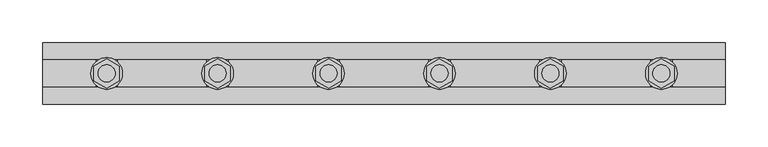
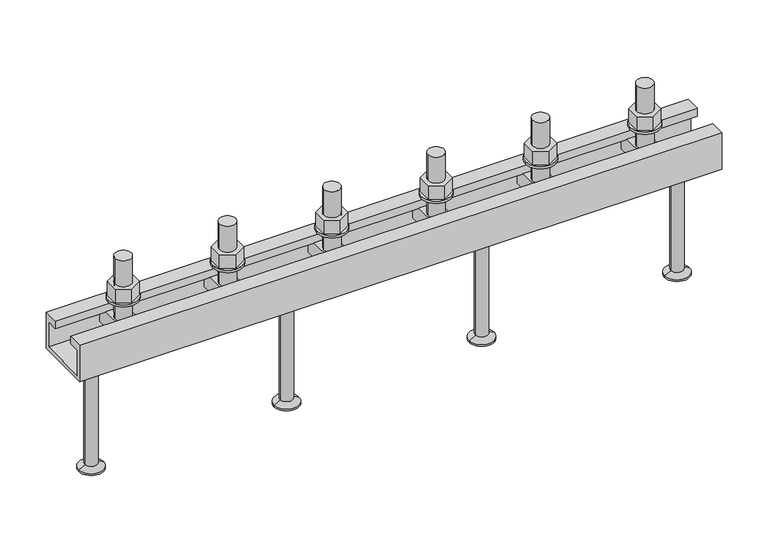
"""IFC4 building model written with IfcOpenShell, lengths in millimetres: fastener geometry, JTA-W JORDAHL® AnchorChannels : JTA-W L=800 mm."""

import ifcopenshell
import ifcopenshell.guid

model = None  # the IFC model being written
_history = None  # IfcOwnerHistory: only IFC2X3 demands one
_inside = {}  # id of a spatial element -> (the spatial element, [elements in it])
_under = {}  # id of a project, library or spatial element -> (it, [spatial elements below it])
_declared = {}  # id of a project -> (the project, [libraries it declares])
_typed = {}  # id of a type object -> (the type object, [elements of that type])
_made_of = {}  # id of a material, layer set ... -> (it, [elements and type objects made of it])


def new_model(schema):
    """Start an empty IFC model of exactly this schema.

    Asked for "IFC4X3", IfcOpenShell would pick the latest addendum, in which some entities
    have other attributes; the version numbers below select the first issue.
    IFC2X3 requires an IfcOwnerHistory on every rooted entity: one is made here for all.
    """
    global model, _history
    if schema == "IFC4X3":
        model = ifcopenshell.file(schema_version=(4, 3, 0, 0))
    else:
        model = ifcopenshell.file(schema=schema)
    _inside.clear()
    _under.clear()
    _declared.clear()
    _typed.clear()
    _made_of.clear()
    _history = None
    if model.schema == "IFC2X3":
        org = make("IfcOrganization", Name="unknown")
        user = make(
            "IfcPersonAndOrganization",
            ThePerson=make("IfcPerson", FamilyName="unknown"),
            TheOrganization=org,
        )
        app = make(
            "IfcApplication",
            ApplicationDeveloper=org,
            Version="unknown",
            ApplicationFullName="unknown",
            ApplicationIdentifier="unknown",
        )
        _history = make(
            "IfcOwnerHistory",
            OwningUser=user,
            OwningApplication=app,
            ChangeAction="ADDED",
            CreationDate=0,
        )
    return model


def make(cls, **values):
    """One entity of the class cls with the attributes given. An attribute that is None is left unset."""
    return model.create_entity(
        cls, **{name: value for name, value in values.items() if value is not None}
    )


def rooted(cls, **values):
    """An entity with a GlobalId (a new one), such as an element, a storey or a relation."""
    return make(cls, GlobalId=ifcopenshell.guid.new(), OwnerHistory=_history, **values)


def si_unit(unit_type, name, prefix=None):
    """IfcSIUnit, for example si_unit("LENGTHUNIT", "METRE", prefix="MILLI")."""
    return make("IfcSIUnit", UnitType=unit_type, Prefix=prefix, Name=name)


def assignment(units):
    """IfcUnitAssignment: the units of a project."""
    return None if units is None else make("IfcUnitAssignment", Units=units)


def point(xyz):
    """IfcCartesianPoint."""
    return None if xyz is None else make("IfcCartesianPoint", Coordinates=xyz)


def direction(xyz):
    """IfcDirection."""
    return None if xyz is None else make("IfcDirection", DirectionRatios=xyz)


def frame(location, z_axis=None, x_axis=None):
    """IfcAxis2Placement3D, a coordinate frame: its origin and axes. An axis left out is left unset."""
    return make(
        "IfcAxis2Placement3D",
        Location=point(location),
        Axis=direction(z_axis),
        RefDirection=direction(x_axis),
    )


def frame_2d(location, x_axis=None):
    """IfcAxis2Placement2D, a coordinate frame in the plane: its origin and x axis."""
    return make(
        "IfcAxis2Placement2D", Location=point(location), RefDirection=direction(x_axis)
    )


def origin():
    """The frame at (0, 0, 0) with its axes left unset."""
    return frame((0.0, 0.0, 0.0))


def place(relative_to, where):
    """IfcLocalPlacement: puts the frame where relative to a parent placement (None: the world)."""
    return make(
        "IfcLocalPlacement", PlacementRelTo=relative_to, RelativePlacement=where
    )


def context(
    kind, dimensions, precision=None, world=None, true_north=None, identifier=None
):
    """IfcGeometricRepresentationContext, for example the 3D "Model" context."""
    return make(
        "IfcGeometricRepresentationContext",
        ContextIdentifier=identifier,
        ContextType=kind,
        CoordinateSpaceDimension=dimensions,
        Precision=precision,
        WorldCoordinateSystem=world,
        TrueNorth=true_north,
    )


def project(units=None, contexts=None):
    """IfcProject with its units and contexts."""
    return rooted(
        "IfcProject",
        Name="project",
        RepresentationContexts=contexts,
        UnitsInContext=assignment(units),
    )


def spatial(cls, under=None, at=None, **own):
    """A site, building, storey or space (cls), placed at a placement, below another one or the project."""
    s = rooted(cls, ObjectPlacement=at, **own)
    if under is not None:
        _under.setdefault(under.id(), (under, []))[1].append(s)
    return s


def polyline(points):
    """IfcPolyline through the points."""
    return make("IfcPolyline", Points=[point(p) for p in points])


def circle_curve(where, radius):
    """IfcCircle in the frame where."""
    return make("IfcCircle", Position=where, Radius=radius)


def trimmed(basis, trim1, trim2, sense, master):
    """IfcTrimmedCurve: the piece of a basis curve between two trims."""
    return make(
        "IfcTrimmedCurve",
        BasisCurve=basis,
        Trim1=trim1,
        Trim2=trim2,
        SenseAgreement=sense,
        MasterRepresentation=master,
    )


def segment(curve, same_sense, transition):
    """IfcCompositeCurveSegment."""
    return make(
        "IfcCompositeCurveSegment",
        Transition=transition,
        SameSense=same_sense,
        ParentCurve=curve,
    )


def composite_curve(segments, self_intersect=None):
    """IfcCompositeCurve: segments joined end to end."""
    return make("IfcCompositeCurve", Segments=segments, SelfIntersect=self_intersect)


def outline(outer, holes=None, kind="AREA"):
    """IfcArbitraryClosedProfileDef: a profile drawn as a closed curve; with holes, ...WithVoids."""
    if holes is None:
        return make("IfcArbitraryClosedProfileDef", ProfileType=kind, OuterCurve=outer)
    return make(
        "IfcArbitraryProfileDefWithVoids",
        ProfileType=kind,
        OuterCurve=outer,
        InnerCurves=holes,
    )


def extrude(swept, where, along, depth):
    """IfcExtrudedAreaSolid: the profile swept, set in the frame where, extruded along a direction by depth."""
    return make(
        "IfcExtrudedAreaSolid",
        SweptArea=swept,
        Position=where,
        ExtrudedDirection=direction(along),
        Depth=depth,
    )


def shape(context_of_items, identifier, shape_type, items):
    """IfcShapeRepresentation: the items that make up one representation, for example the "Body"."""
    return make(
        "IfcShapeRepresentation",
        ContextOfItems=context_of_items,
        RepresentationIdentifier=identifier,
        RepresentationType=shape_type,
        Items=items,
    )


def source(mapping_origin, context_of_items, identifier, shape_type, items):
    """IfcRepresentationMap: a shape defined once, which mapped items show again and again."""
    return make(
        "IfcRepresentationMap",
        MappingOrigin=mapping_origin,
        MappedRepresentation=shape(context_of_items, identifier, shape_type, items),
    )


def transform(
    local_origin,
    x_axis=None,
    y_axis=None,
    z_axis=None,
    scale=None,
    scale2=None,
    scale3=None,
    uniform=True,
):
    """IfcCartesianTransformationOperator3D, or its non-uniform kind. x_axis, y_axis, z_axis: its Axis1, 2, 3."""
    if uniform:
        return make(
            "IfcCartesianTransformationOperator3D",
            Axis1=direction(x_axis),
            Axis2=direction(y_axis),
            LocalOrigin=point(local_origin),
            Scale=scale,
            Axis3=direction(z_axis),
        )
    return make(
        "IfcCartesianTransformationOperator3DnonUniform",
        Axis1=direction(x_axis),
        Axis2=direction(y_axis),
        LocalOrigin=point(local_origin),
        Scale=scale,
        Axis3=direction(z_axis),
        Scale2=scale2,
        Scale3=scale3,
    )


def mapped(mapping_source, mapping_target):
    """IfcMappedItem: shows the shape of a source again, moved by a transform."""
    return make(
        "IfcMappedItem", MappingSource=mapping_source, MappingTarget=mapping_target
    )


def made_of(thing, what):
    """Note that an element or type object is made of a material, layer set ...; save() writes the relation."""
    if what is not None:
        _made_of.setdefault(what.id(), (what, []))[1].append(thing)
    return thing


def element(
    cls,
    number,
    at=None,
    inside=None,
    cuts=None,
    type_object=None,
    material=None,
    context=None,
    identifier="Body",
    shape_type=None,
    held_by="IfcProductDefinitionShape",
    body=None,
    shapes=None,
    **own,
):
    """One element of the class cls, such as IfcWall. Its Tag is "e" and its number.

    at: its placement. inside: the storey or other place that contains it. cuts: it is an
    opening in that element (IfcRelVoidsElement). A single representation is given by context,
    identifier, shape_type and body (its items); several are given by shapes. held_by: the class
    of the entity that holds the representations. save() writes the other relations.
    """
    e = rooted(cls, Tag="e%d" % number, ObjectPlacement=at, **own)
    if body is not None:
        shapes = [shape(context, identifier, shape_type, body)]
    if shapes is not None:
        e.Representation = make(held_by, Representations=shapes)
    if inside is not None:
        _inside.setdefault(inside.id(), (inside, []))[1].append(e)
    if cuts is not None:
        rooted(
            "IfcRelVoidsElement", RelatingBuildingElement=cuts, RelatedOpeningElement=e
        )
    if type_object is not None:
        _typed.setdefault(type_object.id(), (type_object, []))[1].append(e)
    return made_of(e, material)


def aggregate(whole, parts):
    """IfcRelAggregates: a whole, such as a stair, and the parts it consists of."""
    return rooted("IfcRelAggregates", RelatingObject=whole, RelatedObjects=parts)


def save(model, path):
    """Write the relations noted so far, then the file.

    IfcRelAggregates (storeys below a building ...), IfcRelContainedInSpatialStructure (elements
    in a storey), IfcRelDefinesByType, IfcRelAssociatesMaterial and IfcRelDeclares: one each for
    every whole, place, type object, material and project.
    """
    for whole, parts in _under.values():
        aggregate(whole, parts)
    for where, things in _inside.values():
        rooted(
            "IfcRelContainedInSpatialStructure",
            RelatedElements=things,
            RelatingStructure=where,
        )
    for kind, things in _typed.values():
        rooted("IfcRelDefinesByType", RelatedObjects=things, RelatingType=kind)
    for what, things in _made_of.values():
        rooted("IfcRelAssociatesMaterial", RelatedObjects=things, RelatingMaterial=what)
    for by, libraries in _declared.values():
        rooted("IfcRelDeclares", RelatingContext=by, RelatedDefinitions=libraries)
    model.write(path)


def plane_surface(at):
    """IfcPlane: the flat surface through the origin of the frame at, square to its z axis."""
    return make("IfcPlane", Position=at)


def cylinder_surface(at, radius):
    """IfcCylindricalSurface: all points at the distance radius from the z axis of the frame at."""
    return make("IfcCylindricalSurface", Position=at, Radius=radius)


def revolved_surface(curve, axis_point, axis_direction):
    """IfcSurfaceOfRevolution: the curve turned about the line through axis_point along axis_direction."""
    return make(
        "IfcSurfaceOfRevolution",
        SweptCurve=make("IfcArbitraryOpenProfileDef", ProfileType="CURVE", Curve=curve),
        AxisPosition=make("IfcAxis1Placement", Location=point(axis_point), Axis=direction(axis_direction)),
    )


def advanced_brep(points, edges, surfaces, faces):
    """IfcAdvancedBrep: a solid bounded by faces that lie on surfaces and meet in shared edges.

    An edge is (start, end): straight between two places in points (the first is 0);
    or (start, end, curve); or (start, end, curve, False) where it runs against its curve.
    A face is (place in surfaces, loops), or (place, loops, False) where it looks against
    its surface's normal. A loop lists edges by number (the first is 1), with a minus sign
    where the edge is run from its end to its start. The first loop is the outer one.
    """
    corners = [point(p) for p in points]
    vertices = [make("IfcVertexPoint", VertexGeometry=c) for c in corners]
    made = []
    for start, end, *more in edges:
        made.append(
            make(
                "IfcEdgeCurve",
                EdgeStart=vertices[start],
                EdgeEnd=vertices[end],
                EdgeGeometry=more[0] if more else make("IfcPolyline", Points=[corners[start], corners[end]]),
                SameSense=more[1] if len(more) > 1 else True,
            )
        )
    hull = []
    for where, loops, *sense in faces:
        bounds = []
        for j, loop in enumerate(loops):
            ring = [make("IfcOrientedEdge", EdgeElement=made[abs(k) - 1], Orientation=k > 0) for k in loop]
            bounds.append(
                make(
                    "IfcFaceOuterBound" if j == 0 else "IfcFaceBound",
                    Bound=make("IfcEdgeLoop", EdgeList=ring),
                    Orientation=True,
                )
            )
        hull.append(make("IfcAdvancedFace", Bounds=bounds, FaceSurface=surfaces[where], SameSense=sense[0] if sense else True))
    return make("IfcAdvancedBrep", Outer=make("IfcClosedShell", CfsFaces=hull))


def fastener_4537a4bb(model_context):
    return source(origin(), model_context, "Body", "SolidModel", [
        extrude(outline(polyline([(595.0, 17.3205081), (610.0, 8.660254), (610.0, -8.660254), (595.0, -17.3205081), (580.0, -8.660254), (580.0, 8.660254), (595.0, 17.3205081)]), holes=[composite_curve([segment(trimmed(circle_curve(frame_2d((595.0, 0.0)), 10.0), [point((585.0, 0.0))], [point((605.0, 0.0))], True, "CARTESIAN"), True, "CONTINUOUS"), segment(trimmed(circle_curve(frame_2d((595.0, 0.0)), 10.0), [point((605.0, 0.0))], [point((585.0, 0.0))], True, "CARTESIAN"), True, "CONTINUOUS")], self_intersect=False)]), frame((0.0, 0.0, 18.0), z_axis=(0.0, 0.0, 1.0), x_axis=(1.0, 0.0, 0.0)), (0.0, 0.0, 1.0), 18.0),
        extrude(outline(composite_curve([segment(trimmed(circle_curve(frame_2d((595.0, 0.0)), 18.5), [point((576.5, 0.0))], [point((613.5, 0.0))], False, "CARTESIAN"), True, "CONTINUOUS"), segment(trimmed(circle_curve(frame_2d((595.0, 0.0)), 18.5), [point((613.5, 0.0))], [point((576.5, 0.0))], False, "CARTESIAN"), True, "CONTINUOUS")], self_intersect=False), holes=[composite_curve([segment(trimmed(circle_curve(frame_2d((595.0, 0.0)), 10.5), [point((584.5, 0.0))], [point((605.5, 0.0))], True, "CARTESIAN"), True, "CONTINUOUS"), segment(trimmed(circle_curve(frame_2d((595.0, 0.0)), 10.5), [point((605.5, 0.0))], [point((584.5, 0.0))], True, "CARTESIAN"), True, "CONTINUOUS")], self_intersect=False)]), frame((0.0, 0.0, 15.0), z_axis=(0.0, 0.0, 1.0), x_axis=(1.0, 0.0, 0.0)), (0.0, 0.0, 1.0), 3.0),
        extrude(outline(polyline([(465.0, 17.3205081), (480.0, 8.660254), (480.0, -8.660254), (465.0, -17.3205081), (450.0, -8.660254), (450.0, 8.660254), (465.0, 17.3205081)]), holes=[composite_curve([segment(trimmed(circle_curve(frame_2d((465.0, 0.0)), 10.0), [point((455.0, 0.0))], [point((475.0, 0.0))], True, "CARTESIAN"), True, "CONTINUOUS"), segment(trimmed(circle_curve(frame_2d((465.0, 0.0)), 10.0), [point((475.0, 0.0))], [point((455.0, 0.0))], True, "CARTESIAN"), True, "CONTINUOUS")], self_intersect=False)]), frame((0.0, 0.0, 18.0), z_axis=(0.0, 0.0, 1.0), x_axis=(1.0, 0.0, 0.0)), (0.0, 0.0, 1.0), 18.0),
        extrude(outline(composite_curve([segment(trimmed(circle_curve(frame_2d((465.0, 0.0)), 18.5), [point((446.5, 0.0))], [point((483.5, 0.0))], False, "CARTESIAN"), True, "CONTINUOUS"), segment(trimmed(circle_curve(frame_2d((465.0, 0.0)), 18.5), [point((483.5, 0.0))], [point((446.5, 0.0))], False, "CARTESIAN"), True, "CONTINUOUS")], self_intersect=False), holes=[composite_curve([segment(trimmed(circle_curve(frame_2d((465.0, 0.0)), 10.5), [point((454.5, 0.0))], [point((475.5, 0.0))], True, "CARTESIAN"), True, "CONTINUOUS"), segment(trimmed(circle_curve(frame_2d((465.0, 0.0)), 10.5), [point((475.5, 0.0))], [point((454.5, 0.0))], True, "CARTESIAN"), True, "CONTINUOUS")], self_intersect=False)]), frame((0.0, 0.0, 15.0), z_axis=(0.0, 0.0, 1.0), x_axis=(1.0, 0.0, 0.0)), (0.0, 0.0, 1.0), 3.0),
        extrude(outline(polyline([(335.0, 17.3205081), (350.0, 8.660254), (350.0, -8.660254), (335.0, -17.3205081), (320.0, -8.660254), (320.0, 8.660254), (335.0, 17.3205081)]), holes=[composite_curve([segment(trimmed(circle_curve(frame_2d((335.0, 0.0)), 10.0), [point((325.0, 0.0))], [point((345.0, 0.0))], True, "CARTESIAN"), True, "CONTINUOUS"), segment(trimmed(circle_curve(frame_2d((335.0, 0.0)), 10.0), [point((345.0, 0.0))], [point((325.0, 0.0))], True, "CARTESIAN"), True, "CONTINUOUS")], self_intersect=False)]), frame((0.0, 0.0, 18.0), z_axis=(0.0, 0.0, 1.0), x_axis=(1.0, 0.0, 0.0)), (0.0, 0.0, 1.0), 18.0),
        extrude(outline(composite_curve([segment(trimmed(circle_curve(frame_2d((335.0, 0.0)), 18.5), [point((316.5, 0.0))], [point((353.5, 0.0))], False, "CARTESIAN"), True, "CONTINUOUS"), segment(trimmed(circle_curve(frame_2d((335.0, 0.0)), 18.5), [point((353.5, 0.0))], [point((316.5, 0.0))], False, "CARTESIAN"), True, "CONTINUOUS")], self_intersect=False), holes=[composite_curve([segment(trimmed(circle_curve(frame_2d((335.0, 0.0)), 10.5), [point((324.5, 0.0))], [point((345.5, 0.0))], True, "CARTESIAN"), True, "CONTINUOUS"), segment(trimmed(circle_curve(frame_2d((335.0, 0.0)), 10.5), [point((345.5, 0.0))], [point((324.5, 0.0))], True, "CARTESIAN"), True, "CONTINUOUS")], self_intersect=False)]), frame((0.0, 0.0, 15.0), z_axis=(0.0, 0.0, 1.0), x_axis=(1.0, 0.0, 0.0)), (0.0, 0.0, 1.0), 3.0),
        extrude(outline(polyline([(205.0, 17.3205081), (220.0, 8.660254), (220.0, -8.660254), (205.0, -17.3205081), (190.0, -8.660254), (190.0, 8.660254), (205.0, 17.3205081)]), holes=[composite_curve([segment(trimmed(circle_curve(frame_2d((205.0, 0.0)), 10.0), [point((195.0, 0.0))], [point((215.0, 0.0))], True, "CARTESIAN"), True, "CONTINUOUS"), segment(trimmed(circle_curve(frame_2d((205.0, 0.0)), 10.0), [point((215.0, 0.0))], [point((195.0, 0.0))], True, "CARTESIAN"), True, "CONTINUOUS")], self_intersect=False)]), frame((0.0, 0.0, 18.0), z_axis=(0.0, 0.0, 1.0), x_axis=(1.0, 0.0, 0.0)), (0.0, 0.0, 1.0), 18.0),
        extrude(outline(composite_curve([segment(trimmed(circle_curve(frame_2d((205.0, 0.0)), 18.5), [point((186.5, 0.0))], [point((223.5, 0.0))], False, "CARTESIAN"), True, "CONTINUOUS"), segment(trimmed(circle_curve(frame_2d((205.0, 0.0)), 18.5), [point((223.5, 0.0))], [point((186.5, 0.0))], False, "CARTESIAN"), True, "CONTINUOUS")], self_intersect=False), holes=[composite_curve([segment(trimmed(circle_curve(frame_2d((205.0, 0.0)), 10.5), [point((194.5, 0.0))], [point((215.5, 0.0))], True, "CARTESIAN"), True, "CONTINUOUS"), segment(trimmed(circle_curve(frame_2d((205.0, 0.0)), 10.5), [point((215.5, 0.0))], [point((194.5, 0.0))], True, "CARTESIAN"), True, "CONTINUOUS")], self_intersect=False)]), frame((0.0, 0.0, 15.0), z_axis=(0.0, 0.0, 1.0), x_axis=(1.0, 0.0, 0.0)), (0.0, 0.0, 1.0), 3.0),
        advanced_brep(
        [(607.5, 29.0, -10.0), (607.5, -29.0, -10.0), (607.5, -29.0, -30.0), (607.5, 29.0, -30.0), (582.5, 29.0, -10.0), (582.5, 29.0, -30.0), (582.5, -29.0, -30.0), (582.5, -29.0, -10.0), (605.0, 0.0, -10.0), (585.0, 0.0, -10.0), (585.0, 0.0, 70.0), (605.0, 0.0, 70.0)],
        [
            (0, 1),
            (1, 2),
            (2, 3),
            (3, 0),
            (4, 5),
            (5, 6),
            (6, 7),
            (7, 4),
            (0, 4),
            (7, 1),
            (8, 9, circle_curve(frame((595.0, 0.0, -10.0), z_axis=(0.0, 0.0, -1.0), x_axis=(1.0, 0.0, 0.0)), 10.0)),
            (9, 8, circle_curve(frame((595.0, 0.0, -10.0), z_axis=(0.0, 0.0, -1.0), x_axis=(1.0, 0.0, 0.0)), 10.0)),
            (6, 2),
            (5, 3),
            (10, 11, circle_curve(frame((595.0, 0.0, 70.0), z_axis=(0.0, 0.0, 1.0), x_axis=(1.0, 0.0, 0.0)), 10.0)),
            (11, 10, circle_curve(frame((595.0, 0.0, 70.0), z_axis=(0.0, 0.0, 1.0), x_axis=(1.0, 0.0, 0.0)), 10.0)),
            (10, 9),
            (8, 11),
        ],
        [
            plane_surface(frame((607.5, -29.0, -10.0), z_axis=(1.0, 0.0, 0.0), x_axis=(0.0, -1.0, 0.0))),
            plane_surface(frame((582.5, -29.0, -10.0), z_axis=(-1.0, 0.0, 0.0), x_axis=(0.0, 1.0, 0.0))),
            plane_surface(frame((607.5, 29.0, -10.0), z_axis=(0.0, 0.0, 1.0), x_axis=(-1.0, 0.0, 0.0))),
            plane_surface(frame((607.5, -29.0, -10.0), z_axis=(0.0, -1.0, 0.0), x_axis=(-1.0, 0.0, 0.0))),
            plane_surface(frame((607.5, -29.0, -30.0), z_axis=(0.0, 0.0, -1.0), x_axis=(-1.0, 0.0, 0.0))),
            plane_surface(frame((607.5, 29.0, -30.0), z_axis=(0.0, 1.0, 0.0), x_axis=(-1.0, 0.0, 0.0))),
            plane_surface(frame((605.0, 0.0, 70.0), z_axis=(0.0, 0.0, 1.0), x_axis=(0.0, 1.0, 0.0))),
            cylinder_surface(frame((595.0, 0.0, -10.0), z_axis=(0.0, 0.0, 1.0), x_axis=(1.0, 0.0, 0.0)), 10.0),
        ],
        [
            (0, [[1, 2, 3, 4]]),
            (1, [[5, 6, 7, 8]]),
            (2, [[-1, 9, -8, 10], [11, 12]]),
            (3, [[-2, -10, -7, 13]]),
            (4, [[-3, -13, -6, 14]]),
            (5, [[-4, -14, -5, -9]]),
            (6, [[15, 16]]),
            (7, [[-15, 17, -11, 18]]),
            (7, [[-16, -18, -12, -17]]),
        ],
    ),
        advanced_brep(
        [(477.5, 29.0, -10.0), (477.5, -29.0, -10.0), (477.5, -29.0, -30.0), (477.5, 29.0, -30.0), (452.5, 29.0, -10.0), (452.5, 29.0, -30.0), (452.5, -29.0, -30.0), (452.5, -29.0, -10.0), (475.0, 0.0, -10.0), (455.0, 0.0, -10.0), (455.0, 0.0, 70.0), (475.0, 0.0, 70.0)],
        [
            (0, 1),
            (1, 2),
            (2, 3),
            (3, 0),
            (4, 5),
            (5, 6),
            (6, 7),
            (7, 4),
            (0, 4),
            (7, 1),
            (8, 9, circle_curve(frame((465.0, 0.0, -10.0), z_axis=(0.0, 0.0, -1.0), x_axis=(1.0, 0.0, 0.0)), 10.0)),
            (9, 8, circle_curve(frame((465.0, 0.0, -10.0), z_axis=(0.0, 0.0, -1.0), x_axis=(1.0, 0.0, 0.0)), 10.0)),
            (6, 2),
            (5, 3),
            (10, 11, circle_curve(frame((465.0, 0.0, 70.0), z_axis=(0.0, 0.0, 1.0), x_axis=(1.0, 0.0, 0.0)), 10.0)),
            (11, 10, circle_curve(frame((465.0, 0.0, 70.0), z_axis=(0.0, 0.0, 1.0), x_axis=(1.0, 0.0, 0.0)), 10.0)),
            (10, 9),
            (8, 11),
        ],
        [
            plane_surface(frame((477.5, -29.0, -10.0), z_axis=(1.0, 0.0, 0.0), x_axis=(0.0, -1.0, 0.0))),
            plane_surface(frame((452.5, -29.0, -10.0), z_axis=(-1.0, 0.0, 0.0), x_axis=(0.0, 1.0, 0.0))),
            plane_surface(frame((477.5, 29.0, -10.0), z_axis=(0.0, 0.0, 1.0), x_axis=(-1.0, 0.0, 0.0))),
            plane_surface(frame((477.5, -29.0, -10.0), z_axis=(0.0, -1.0, 0.0), x_axis=(-1.0, 0.0, 0.0))),
            plane_surface(frame((477.5, -29.0, -30.0), z_axis=(0.0, 0.0, -1.0), x_axis=(-1.0, 0.0, 0.0))),
            plane_surface(frame((477.5, 29.0, -30.0), z_axis=(0.0, 1.0, 0.0), x_axis=(-1.0, 0.0, 0.0))),
            plane_surface(frame((475.0, 0.0, 70.0), z_axis=(0.0, 0.0, 1.0), x_axis=(0.0, 1.0, 0.0))),
            cylinder_surface(frame((465.0, 0.0, -10.0), z_axis=(0.0, 0.0, 1.0), x_axis=(1.0, 0.0, 0.0)), 10.0),
        ],
        [
            (0, [[1, 2, 3, 4]]),
            (1, [[5, 6, 7, 8]]),
            (2, [[-1, 9, -8, 10], [11, 12]]),
            (3, [[-2, -10, -7, 13]]),
            (4, [[-3, -13, -6, 14]]),
            (5, [[-4, -14, -5, -9]]),
            (6, [[15, 16]]),
            (7, [[-15, 17, -11, 18]]),
            (7, [[-16, -18, -12, -17]]),
        ],
    ),
        advanced_brep(
        [(347.5, 29.0, -10.0), (347.5, -29.0, -10.0), (347.5, -29.0, -30.0), (347.5, 29.0, -30.0), (322.5, 29.0, -10.0), (322.5, 29.0, -30.0), (322.5, -29.0, -30.0), (322.5, -29.0, -10.0), (345.0, 0.0, -10.0), (325.0, 0.0, -10.0), (325.0, 0.0, 70.0), (345.0, 0.0, 70.0)],
        [
            (0, 1),
            (1, 2),
            (2, 3),
            (3, 0),
            (4, 5),
            (5, 6),
            (6, 7),
            (7, 4),
            (0, 4),
            (7, 1),
            (8, 9, circle_curve(frame((335.0, 0.0, -10.0), z_axis=(0.0, 0.0, -1.0), x_axis=(1.0, 0.0, 0.0)), 10.0)),
            (9, 8, circle_curve(frame((335.0, 0.0, -10.0), z_axis=(0.0, 0.0, -1.0), x_axis=(1.0, 0.0, 0.0)), 10.0)),
            (6, 2),
            (5, 3),
            (10, 11, circle_curve(frame((335.0, 0.0, 70.0), z_axis=(0.0, 0.0, 1.0), x_axis=(1.0, 0.0, 0.0)), 10.0)),
            (11, 10, circle_curve(frame((335.0, 0.0, 70.0), z_axis=(0.0, 0.0, 1.0), x_axis=(1.0, 0.0, 0.0)), 10.0)),
            (10, 9),
            (8, 11),
        ],
        [
            plane_surface(frame((347.5, -29.0, -10.0), z_axis=(1.0, 0.0, 0.0), x_axis=(0.0, -1.0, 0.0))),
            plane_surface(frame((322.5, -29.0, -10.0), z_axis=(-1.0, 0.0, 0.0), x_axis=(0.0, 1.0, 0.0))),
            plane_surface(frame((347.5, 29.0, -10.0), z_axis=(0.0, 0.0, 1.0), x_axis=(-1.0, 0.0, 0.0))),
            plane_surface(frame((347.5, -29.0, -10.0), z_axis=(0.0, -1.0, 0.0), x_axis=(-1.0, 0.0, 0.0))),
            plane_surface(frame((347.5, -29.0, -30.0), z_axis=(0.0, 0.0, -1.0), x_axis=(-1.0, 0.0, 0.0))),
            plane_surface(frame((347.5, 29.0, -30.0), z_axis=(0.0, 1.0, 0.0), x_axis=(-1.0, 0.0, 0.0))),
            plane_surface(frame((345.0, 0.0, 70.0), z_axis=(0.0, 0.0, 1.0), x_axis=(0.0, 1.0, 0.0))),
            cylinder_surface(frame((335.0, 0.0, -10.0), z_axis=(0.0, 0.0, 1.0), x_axis=(1.0, 0.0, 0.0)), 10.0),
        ],
        [
            (0, [[1, 2, 3, 4]]),
            (1, [[5, 6, 7, 8]]),
            (2, [[-1, 9, -8, 10], [11, 12]]),
            (3, [[-2, -10, -7, 13]]),
            (4, [[-3, -13, -6, 14]]),
            (5, [[-4, -14, -5, -9]]),
            (6, [[15, 16]]),
            (7, [[-15, 17, -11, 18]]),
            (7, [[-16, -18, -12, -17]]),
        ],
    ),
        advanced_brep(
        [(217.5, 29.0, -10.0), (217.5, -29.0, -10.0), (217.5, -29.0, -30.0), (217.5, 29.0, -30.0), (192.5, 29.0, -10.0), (192.5, 29.0, -30.0), (192.5, -29.0, -30.0), (192.5, -29.0, -10.0), (215.0, 0.0, -10.0), (195.0, 0.0, -10.0), (195.0, 0.0, 70.0), (215.0, 0.0, 70.0)],
        [
            (0, 1),
            (1, 2),
            (2, 3),
            (3, 0),
            (4, 5),
            (5, 6),
            (6, 7),
            (7, 4),
            (0, 4),
            (7, 1),
            (8, 9, circle_curve(frame((205.0, 0.0, -10.0), z_axis=(0.0, 0.0, -1.0), x_axis=(1.0, 0.0, 0.0)), 10.0)),
            (9, 8, circle_curve(frame((205.0, 0.0, -10.0), z_axis=(0.0, 0.0, -1.0), x_axis=(1.0, 0.0, 0.0)), 10.0)),
            (6, 2),
            (5, 3),
            (10, 11, circle_curve(frame((205.0, 0.0, 70.0), z_axis=(0.0, 0.0, 1.0), x_axis=(1.0, 0.0, 0.0)), 10.0)),
            (11, 10, circle_curve(frame((205.0, 0.0, 70.0), z_axis=(0.0, 0.0, 1.0), x_axis=(1.0, 0.0, 0.0)), 10.0)),
            (10, 9),
            (8, 11),
        ],
        [
            plane_surface(frame((217.5, -29.0, -10.0), z_axis=(1.0, 0.0, 0.0), x_axis=(0.0, -1.0, 0.0))),
            plane_surface(frame((192.5, -29.0, -10.0), z_axis=(-1.0, 0.0, 0.0), x_axis=(0.0, 1.0, 0.0))),
            plane_surface(frame((217.5, 29.0, -10.0), z_axis=(0.0, 0.0, 1.0), x_axis=(-1.0, 0.0, 0.0))),
            plane_surface(frame((217.5, -29.0, -10.0), z_axis=(0.0, -1.0, 0.0), x_axis=(-1.0, 0.0, 0.0))),
            plane_surface(frame((217.5, -29.0, -30.0), z_axis=(0.0, 0.0, -1.0), x_axis=(-1.0, 0.0, 0.0))),
            plane_surface(frame((217.5, 29.0, -30.0), z_axis=(0.0, 1.0, 0.0), x_axis=(-1.0, 0.0, 0.0))),
            plane_surface(frame((215.0, 0.0, 70.0), z_axis=(0.0, 0.0, 1.0), x_axis=(0.0, 1.0, 0.0))),
            cylinder_surface(frame((205.0, 0.0, -10.0), z_axis=(0.0, 0.0, 1.0), x_axis=(1.0, 0.0, 0.0)), 10.0),
        ],
        [
            (0, [[1, 2, 3, 4]]),
            (1, [[5, 6, 7, 8]]),
            (2, [[-1, 9, -8, 10], [11, 12]]),
            (3, [[-2, -10, -7, 13]]),
            (4, [[-3, -13, -6, 14]]),
            (5, [[-4, -14, -5, -9]]),
            (6, [[15, 16]]),
            (7, [[-15, 17, -11, 18]]),
            (7, [[-16, -18, -12, -17]]),
        ],
    ),
        advanced_brep(
        [(521.6666667, 0.0, -48.0), (544.6666667, 0.0, -48.0), (498.6666667, 0.0, -48.0), (506.1666667, 0.0, -195.0), (537.1666667, 0.0, -195.0), (521.6666667, 0.0, -195.0), (506.1666667, 0.0, -193.0), (537.1666667, 0.0, -193.0), (513.8666667, 0.0, -188.5544029), (529.4666667, 0.0, -188.5544029), (513.8666667, 0.0, -52.0), (529.4666667, 0.0, -52.0)],
        [
            (0, 1),
            (1, 2, circle_curve(frame((521.6666667, 0.0, -48.0), z_axis=(0.0, 0.0, 1.0), x_axis=(1.0, 0.0, 0.0)), 23.0)),
            (2, 0),
            (2, 1, circle_curve(frame((521.6666667, 0.0, -48.0), z_axis=(0.0, 0.0, 1.0), x_axis=(1.0, 0.0, 0.0)), 23.0)),
            (3, 4, circle_curve(frame((521.6666667, 0.0, -195.0), z_axis=(0.0, 0.0, -1.0), x_axis=(1.0, 0.0, 0.0)), 15.5)),
            (4, 5),
            (5, 3),
            (4, 3, circle_curve(frame((521.6666667, 0.0, -195.0), z_axis=(0.0, 0.0, -1.0), x_axis=(1.0, 0.0, 0.0)), 15.5)),
            (6, 7, circle_curve(frame((521.6666667, 0.0, -193.0), z_axis=(0.0, 0.0, -1.0), x_axis=(1.0, 0.0, 0.0)), 15.5)),
            (7, 4),
            (3, 6),
            (7, 6, circle_curve(frame((521.6666667, 0.0, -193.0), z_axis=(0.0, 0.0, -1.0), x_axis=(1.0, 0.0, 0.0)), 15.5)),
            (8, 9, circle_curve(frame((521.6666667, 0.0, -188.5544029), z_axis=(0.0, 0.0, -1.0), x_axis=(1.0, 0.0, 0.0)), 7.8)),
            (9, 7),
            (6, 8),
            (9, 8, circle_curve(frame((521.6666667, 0.0, -188.5544029), z_axis=(0.0, 0.0, -1.0), x_axis=(1.0, 0.0, 0.0)), 7.8)),
            (10, 11, circle_curve(frame((521.6666667, 0.0, -52.0), z_axis=(0.0, 0.0, -1.0), x_axis=(1.0, 0.0, 0.0)), 7.8)),
            (11, 9),
            (8, 10),
            (11, 10, circle_curve(frame((521.6666667, 0.0, -52.0), z_axis=(0.0, 0.0, -1.0), x_axis=(1.0, 0.0, 0.0)), 7.8)),
            (1, 11),
            (10, 2),
        ],
        [
            plane_surface(frame((521.6666667, 0.0, -48.0), z_axis=(0.0, 0.0, 1.0), x_axis=(1.0, 0.0, 0.0))),
            plane_surface(frame((521.6666667, 0.0, -195.0), z_axis=(0.0, 0.0, -1.0), x_axis=(1.0, 0.0, 0.0))),
            cylinder_surface(frame((521.6666667, 0.0, 2361.3150031), z_axis=(0.0, 0.0, 1.0), x_axis=(1.0, 0.0, 0.0)), 15.5),
            revolved_surface(polyline([(537.1666667, 0.0, -193.0), (529.4666667, 0.0, -188.5544029)]), (521.6666667, 0.0, 2361.3150031), (0.0, 0.0, 1.0)),
            cylinder_surface(frame((521.6666667, 0.0, 2361.3150031), z_axis=(0.0, 0.0, 1.0), x_axis=(1.0, 0.0, 0.0)), 7.8),
            revolved_surface(polyline([(529.4666667, 0.0, -52.0), (544.6666667, 0.0, -48.0)]), (521.6666667, 0.0, 2361.3150031), (0.0, 0.0, 1.0)),
        ],
        [
            (0, [[1, 2, 3]]),
            (0, [[-3, 4, -1]]),
            (1, [[5, 6, 7]]),
            (1, [[8, -7, -6]]),
            (2, [[9, 10, -5, 11]]),
            (2, [[12, -11, -8, -10]]),
            (3, [[13, 14, -9, 15]]),
            (3, [[16, -15, -12, -14]]),
            (4, [[17, 18, -13, 19]]),
            (4, [[20, -19, -16, -18]]),
            (5, [[-2, 21, -17, 22]]),
            (5, [[-4, -22, -20, -21]]),
        ],
    ),
        advanced_brep(
        [(278.3333333, 0.0, -48.0), (301.3333333, 0.0, -48.0), (255.3333333, 0.0, -48.0), (262.8333333, 0.0, -195.0), (293.8333333, 0.0, -195.0), (278.3333333, 0.0, -195.0), (262.8333333, 0.0, -193.0), (293.8333333, 0.0, -193.0), (270.5333333, 0.0, -188.5544029), (286.1333333, 0.0, -188.5544029), (270.5333333, 0.0, -52.0), (286.1333333, 0.0, -52.0)],
        [
            (0, 1),
            (1, 2, circle_curve(frame((278.3333333, 0.0, -48.0), z_axis=(0.0, 0.0, 1.0), x_axis=(1.0, 0.0, 0.0)), 23.0)),
            (2, 0),
            (2, 1, circle_curve(frame((278.3333333, 0.0, -48.0), z_axis=(0.0, 0.0, 1.0), x_axis=(1.0, 0.0, 0.0)), 23.0)),
            (3, 4, circle_curve(frame((278.3333333, 0.0, -195.0), z_axis=(0.0, 0.0, -1.0), x_axis=(1.0, 0.0, 0.0)), 15.5)),
            (4, 5),
            (5, 3),
            (4, 3, circle_curve(frame((278.3333333, 0.0, -195.0), z_axis=(0.0, 0.0, -1.0), x_axis=(1.0, 0.0, 0.0)), 15.5)),
            (6, 7, circle_curve(frame((278.3333333, 0.0, -193.0), z_axis=(0.0, 0.0, -1.0), x_axis=(1.0, 0.0, 0.0)), 15.5)),
            (7, 4),
            (3, 6),
            (7, 6, circle_curve(frame((278.3333333, 0.0, -193.0), z_axis=(0.0, 0.0, -1.0), x_axis=(1.0, 0.0, 0.0)), 15.5)),
            (8, 9, circle_curve(frame((278.3333333, 0.0, -188.5544029), z_axis=(0.0, 0.0, -1.0), x_axis=(1.0, 0.0, 0.0)), 7.8)),
            (9, 7),
            (6, 8),
            (9, 8, circle_curve(frame((278.3333333, 0.0, -188.5544029), z_axis=(0.0, 0.0, -1.0), x_axis=(1.0, 0.0, 0.0)), 7.8)),
            (10, 11, circle_curve(frame((278.3333333, 0.0, -52.0), z_axis=(0.0, 0.0, -1.0), x_axis=(1.0, 0.0, 0.0)), 7.8)),
            (11, 9),
            (8, 10),
            (11, 10, circle_curve(frame((278.3333333, 0.0, -52.0), z_axis=(0.0, 0.0, -1.0), x_axis=(1.0, 0.0, 0.0)), 7.8)),
            (1, 11),
            (10, 2),
        ],
        [
            plane_surface(frame((278.3333333, 0.0, -48.0), z_axis=(0.0, 0.0, 1.0), x_axis=(1.0, 0.0, 0.0))),
            plane_surface(frame((278.3333333, 0.0, -195.0), z_axis=(0.0, 0.0, -1.0), x_axis=(1.0, 0.0, 0.0))),
            cylinder_surface(frame((278.3333333, 0.0, 2361.3150031), z_axis=(0.0, 0.0, 1.0), x_axis=(1.0, 0.0, 0.0)), 15.5),
            revolved_surface(polyline([(293.8333333, 0.0, -193.0), (286.1333333, 0.0, -188.5544029)]), (278.3333333, 0.0, 2361.3150031), (0.0, 0.0, 1.0)),
            cylinder_surface(frame((278.3333333, 0.0, 2361.3150031), z_axis=(0.0, 0.0, 1.0), x_axis=(1.0, 0.0, 0.0)), 7.8),
            revolved_surface(polyline([(286.1333333, 0.0, -52.0), (301.3333333, 0.0, -48.0)]), (278.3333333, 0.0, 2361.3150031), (0.0, 0.0, 1.0)),
        ],
        [
            (0, [[1, 2, 3]]),
            (0, [[-3, 4, -1]]),
            (1, [[5, 6, 7]]),
            (1, [[8, -7, -6]]),
            (2, [[9, 10, -5, 11]]),
            (2, [[12, -11, -8, -10]]),
            (3, [[13, 14, -9, 15]]),
            (3, [[16, -15, -12, -14]]),
            (4, [[17, 18, -13, 19]]),
            (4, [[20, -19, -16, -18]]),
            (5, [[-2, 21, -17, 22]]),
            (5, [[-4, -22, -20, -21]]),
        ],
    ),
        extrude(outline(polyline([(725.0, 17.3205081), (740.0, 8.660254), (740.0, -8.660254), (725.0, -17.3205081), (710.0, -8.660254), (710.0, 8.660254), (725.0, 17.3205081)]), holes=[composite_curve([segment(trimmed(circle_curve(frame_2d((725.0, 0.0)), 10.0), [point((715.0, 0.0))], [point((735.0, 0.0))], True, "CARTESIAN"), True, "CONTINUOUS"), segment(trimmed(circle_curve(frame_2d((725.0, 0.0)), 10.0), [point((735.0, 0.0))], [point((715.0, 0.0))], True, "CARTESIAN"), True, "CONTINUOUS")], self_intersect=False)]), frame((0.0, 0.0, 18.0), z_axis=(0.0, 0.0, 1.0), x_axis=(1.0, 0.0, 0.0)), (0.0, 0.0, 1.0), 18.0),
        extrude(outline(composite_curve([segment(trimmed(circle_curve(frame_2d((725.0, 0.0)), 18.5), [point((706.5, 0.0))], [point((743.5, 0.0))], False, "CARTESIAN"), True, "CONTINUOUS"), segment(trimmed(circle_curve(frame_2d((725.0, 0.0)), 18.5), [point((743.5, 0.0))], [point((706.5, 0.0))], False, "CARTESIAN"), True, "CONTINUOUS")], self_intersect=False), holes=[composite_curve([segment(trimmed(circle_curve(frame_2d((725.0, 0.0)), 10.5), [point((714.5, 0.0))], [point((735.5, 0.0))], True, "CARTESIAN"), True, "CONTINUOUS"), segment(trimmed(circle_curve(frame_2d((725.0, 0.0)), 10.5), [point((735.5, 0.0))], [point((714.5, 0.0))], True, "CARTESIAN"), True, "CONTINUOUS")], self_intersect=False)]), frame((0.0, 0.0, 15.0), z_axis=(0.0, 0.0, 1.0), x_axis=(1.0, 0.0, 0.0)), (0.0, 0.0, 1.0), 3.0),
        extrude(outline(polyline([(75.0, 17.3205081), (90.0, 8.660254), (90.0, -8.660254), (75.0, -17.3205081), (60.0, -8.660254), (60.0, 8.660254), (75.0, 17.3205081)]), holes=[composite_curve([segment(trimmed(circle_curve(frame_2d((75.0, 0.0)), 10.0), [point((65.0, 0.0))], [point((85.0, 0.0))], True, "CARTESIAN"), True, "CONTINUOUS"), segment(trimmed(circle_curve(frame_2d((75.0, 0.0)), 10.0), [point((85.0, 0.0))], [point((65.0, 0.0))], True, "CARTESIAN"), True, "CONTINUOUS")], self_intersect=False)]), frame((0.0, 0.0, 18.0), z_axis=(0.0, 0.0, 1.0), x_axis=(1.0, 0.0, 0.0)), (0.0, 0.0, 1.0), 18.0),
        extrude(outline(composite_curve([segment(trimmed(circle_curve(frame_2d((75.0, 0.0)), 18.5), [point((56.5, 0.0))], [point((93.5, 0.0))], False, "CARTESIAN"), True, "CONTINUOUS"), segment(trimmed(circle_curve(frame_2d((75.0, 0.0)), 18.5), [point((93.5, 0.0))], [point((56.5, 0.0))], False, "CARTESIAN"), True, "CONTINUOUS")], self_intersect=False), holes=[composite_curve([segment(trimmed(circle_curve(frame_2d((75.0, 0.0)), 10.5), [point((64.5, 0.0))], [point((85.5, 0.0))], True, "CARTESIAN"), True, "CONTINUOUS"), segment(trimmed(circle_curve(frame_2d((75.0, 0.0)), 10.5), [point((85.5, 0.0))], [point((64.5, 0.0))], True, "CARTESIAN"), True, "CONTINUOUS")], self_intersect=False)]), frame((0.0, 0.0, 15.0), z_axis=(0.0, 0.0, 1.0), x_axis=(1.0, 0.0, 0.0)), (0.0, 0.0, 1.0), 3.0),
        advanced_brep(
        [(737.5, 29.0, -10.0), (737.5, -29.0, -10.0), (737.5, -29.0, -30.0), (737.5, 29.0, -30.0), (712.5, 29.0, -10.0), (712.5, 29.0, -30.0), (712.5, -29.0, -30.0), (712.5, -29.0, -10.0), (735.0, 0.0, -10.0), (715.0, 0.0, -10.0), (715.0, 0.0, 70.0), (735.0, 0.0, 70.0)],
        [
            (0, 1),
            (1, 2),
            (2, 3),
            (3, 0),
            (4, 5),
            (5, 6),
            (6, 7),
            (7, 4),
            (0, 4),
            (7, 1),
            (8, 9, circle_curve(frame((725.0, 0.0, -10.0), z_axis=(0.0, 0.0, -1.0), x_axis=(1.0, 0.0, 0.0)), 10.0)),
            (9, 8, circle_curve(frame((725.0, 0.0, -10.0), z_axis=(0.0, 0.0, -1.0), x_axis=(1.0, 0.0, 0.0)), 10.0)),
            (6, 2),
            (5, 3),
            (10, 11, circle_curve(frame((725.0, 0.0, 70.0), z_axis=(0.0, 0.0, 1.0), x_axis=(1.0, 0.0, 0.0)), 10.0)),
            (11, 10, circle_curve(frame((725.0, 0.0, 70.0), z_axis=(0.0, 0.0, 1.0), x_axis=(1.0, 0.0, 0.0)), 10.0)),
            (10, 9),
            (8, 11),
        ],
        [
            plane_surface(frame((737.5, -29.0, -10.0), z_axis=(1.0, 0.0, 0.0), x_axis=(0.0, -1.0, 0.0))),
            plane_surface(frame((712.5, -29.0, -10.0), z_axis=(-1.0, 0.0, 0.0), x_axis=(0.0, 1.0, 0.0))),
            plane_surface(frame((737.5, 29.0, -10.0), z_axis=(0.0, 0.0, 1.0), x_axis=(-1.0, 0.0, 0.0))),
            plane_surface(frame((737.5, -29.0, -10.0), z_axis=(0.0, -1.0, 0.0), x_axis=(-1.0, 0.0, 0.0))),
            plane_surface(frame((737.5, -29.0, -30.0), z_axis=(0.0, 0.0, -1.0), x_axis=(-1.0, 0.0, 0.0))),
            plane_surface(frame((737.5, 29.0, -30.0), z_axis=(0.0, 1.0, 0.0), x_axis=(-1.0, 0.0, 0.0))),
            plane_surface(frame((735.0, 0.0, 70.0), z_axis=(0.0, 0.0, 1.0), x_axis=(0.0, 1.0, 0.0))),
            cylinder_surface(frame((725.0, 0.0, -10.0), z_axis=(0.0, 0.0, 1.0), x_axis=(1.0, 0.0, 0.0)), 10.0),
        ],
        [
            (0, [[1, 2, 3, 4]]),
            (1, [[5, 6, 7, 8]]),
            (2, [[-1, 9, -8, 10], [11, 12]]),
            (3, [[-2, -10, -7, 13]]),
            (4, [[-3, -13, -6, 14]]),
            (5, [[-4, -14, -5, -9]]),
            (6, [[15, 16]]),
            (7, [[-15, 17, -11, 18]]),
            (7, [[-16, -18, -12, -17]]),
        ],
    ),
        advanced_brep(
        [(87.5, 29.0, -10.0), (87.5, -29.0, -10.0), (87.5, -29.0, -30.0), (87.5, 29.0, -30.0), (62.5, 29.0, -10.0), (62.5, 29.0, -30.0), (62.5, -29.0, -30.0), (62.5, -29.0, -10.0), (85.0, 0.0, -10.0), (65.0, 0.0, -10.0), (65.0, 0.0, 70.0), (85.0, 0.0, 70.0)],
        [
            (0, 1),
            (1, 2),
            (2, 3),
            (3, 0),
            (4, 5),
            (5, 6),
            (6, 7),
            (7, 4),
            (0, 4),
            (7, 1),
            (8, 9, circle_curve(frame((75.0, 0.0, -10.0), z_axis=(0.0, 0.0, -1.0), x_axis=(1.0, 0.0, 0.0)), 10.0)),
            (9, 8, circle_curve(frame((75.0, 0.0, -10.0), z_axis=(0.0, 0.0, -1.0), x_axis=(1.0, 0.0, 0.0)), 10.0)),
            (6, 2),
            (5, 3),
            (10, 11, circle_curve(frame((75.0, 0.0, 70.0), z_axis=(0.0, 0.0, 1.0), x_axis=(1.0, 0.0, 0.0)), 10.0)),
            (11, 10, circle_curve(frame((75.0, 0.0, 70.0), z_axis=(0.0, 0.0, 1.0), x_axis=(1.0, 0.0, 0.0)), 10.0)),
            (10, 9),
            (8, 11),
        ],
        [
            plane_surface(frame((87.5, -29.0, -10.0), z_axis=(1.0, 0.0, 0.0), x_axis=(0.0, -1.0, 0.0))),
            plane_surface(frame((62.5, -29.0, -10.0), z_axis=(-1.0, 0.0, 0.0), x_axis=(0.0, 1.0, 0.0))),
            plane_surface(frame((87.5, 29.0, -10.0), z_axis=(0.0, 0.0, 1.0), x_axis=(-1.0, 0.0, 0.0))),
            plane_surface(frame((87.5, -29.0, -10.0), z_axis=(0.0, -1.0, 0.0), x_axis=(-1.0, 0.0, 0.0))),
            plane_surface(frame((87.5, -29.0, -30.0), z_axis=(0.0, 0.0, -1.0), x_axis=(-1.0, 0.0, 0.0))),
            plane_surface(frame((87.5, 29.0, -30.0), z_axis=(0.0, 1.0, 0.0), x_axis=(-1.0, 0.0, 0.0))),
            plane_surface(frame((85.0, 0.0, 70.0), z_axis=(0.0, 0.0, 1.0), x_axis=(0.0, 1.0, 0.0))),
            cylinder_surface(frame((75.0, 0.0, -10.0), z_axis=(0.0, 0.0, 1.0), x_axis=(1.0, 0.0, 0.0)), 10.0),
        ],
        [
            (0, [[1, 2, 3, 4]]),
            (1, [[5, 6, 7, 8]]),
            (2, [[-1, 9, -8, 10], [11, 12]]),
            (3, [[-2, -10, -7, 13]]),
            (4, [[-3, -13, -6, 14]]),
            (5, [[-4, -14, -5, -9]]),
            (6, [[15, 16]]),
            (7, [[-15, 17, -11, 18]]),
            (7, [[-16, -18, -12, -17]]),
        ],
    ),
        advanced_brep(
        [(765.0, 0.0, -48.0), (788.0, 0.0, -48.0), (742.0, 0.0, -48.0), (749.5, 0.0, -195.0), (780.5, 0.0, -195.0), (765.0, 0.0, -195.0), (749.5, 0.0, -193.0), (780.5, 0.0, -193.0), (757.2, 0.0, -188.5544029), (772.8, 0.0, -188.5544029), (757.2, 0.0, -52.0), (772.8, 0.0, -52.0)],
        [
            (0, 1),
            (1, 2, circle_curve(frame((765.0, 0.0, -48.0), z_axis=(0.0, 0.0, 1.0), x_axis=(1.0, 0.0, 0.0)), 23.0)),
            (2, 0),
            (2, 1, circle_curve(frame((765.0, 0.0, -48.0), z_axis=(0.0, 0.0, 1.0), x_axis=(1.0, 0.0, 0.0)), 23.0)),
            (3, 4, circle_curve(frame((765.0, 0.0, -195.0), z_axis=(0.0, 0.0, -1.0), x_axis=(1.0, 0.0, 0.0)), 15.5)),
            (4, 5),
            (5, 3),
            (4, 3, circle_curve(frame((765.0, 0.0, -195.0), z_axis=(0.0, 0.0, -1.0), x_axis=(1.0, 0.0, 0.0)), 15.5)),
            (6, 7, circle_curve(frame((765.0, 0.0, -193.0), z_axis=(0.0, 0.0, -1.0), x_axis=(1.0, 0.0, 0.0)), 15.5)),
            (7, 4),
            (3, 6),
            (7, 6, circle_curve(frame((765.0, 0.0, -193.0), z_axis=(0.0, 0.0, -1.0), x_axis=(1.0, 0.0, 0.0)), 15.5)),
            (8, 9, circle_curve(frame((765.0, 0.0, -188.5544029), z_axis=(0.0, 0.0, -1.0), x_axis=(1.0, 0.0, 0.0)), 7.8)),
            (9, 7),
            (6, 8),
            (9, 8, circle_curve(frame((765.0, 0.0, -188.5544029), z_axis=(0.0, 0.0, -1.0), x_axis=(1.0, 0.0, 0.0)), 7.8)),
            (10, 11, circle_curve(frame((765.0, 0.0, -52.0), z_axis=(0.0, 0.0, -1.0), x_axis=(1.0, 0.0, 0.0)), 7.8)),
            (11, 9),
            (8, 10),
            (11, 10, circle_curve(frame((765.0, 0.0, -52.0), z_axis=(0.0, 0.0, -1.0), x_axis=(1.0, 0.0, 0.0)), 7.8)),
            (1, 11),
            (10, 2),
        ],
        [
            plane_surface(frame((765.0, 0.0, -48.0), z_axis=(0.0, 0.0, 1.0), x_axis=(1.0, 0.0, 0.0))),
            plane_surface(frame((765.0, 0.0, -195.0), z_axis=(0.0, 0.0, -1.0), x_axis=(1.0, 0.0, 0.0))),
            cylinder_surface(frame((765.0, 0.0, 2361.3150031), z_axis=(0.0, 0.0, 1.0), x_axis=(1.0, 0.0, 0.0)), 15.5),
            revolved_surface(polyline([(780.5, 0.0, -193.0), (772.8, 0.0, -188.5544029)]), (765.0, 0.0, 2361.3150031), (0.0, 0.0, 1.0)),
            cylinder_surface(frame((765.0, 0.0, 2361.3150031), z_axis=(0.0, 0.0, 1.0), x_axis=(1.0, 0.0, 0.0)), 7.8),
            revolved_surface(polyline([(772.8, 0.0, -52.0), (788.0, 0.0, -48.0)]), (765.0, 0.0, 2361.3150031), (0.0, 0.0, 1.0)),
        ],
        [
            (0, [[1, 2, 3]]),
            (0, [[-3, 4, -1]]),
            (1, [[5, 6, 7]]),
            (1, [[8, -7, -6]]),
            (2, [[9, 10, -5, 11]]),
            (2, [[12, -11, -8, -10]]),
            (3, [[13, 14, -9, 15]]),
            (3, [[16, -15, -12, -14]]),
            (4, [[17, 18, -13, 19]]),
            (4, [[20, -19, -16, -18]]),
            (5, [[-2, 21, -17, 22]]),
            (5, [[-4, -22, -20, -21]]),
        ],
    ),
        advanced_brep(
        [(35.0, 0.0, -48.0), (58.0, 0.0, -48.0), (12.0, 0.0, -48.0), (19.5, 0.0, -195.0), (50.5, 0.0, -195.0), (35.0, 0.0, -195.0), (19.5, 0.0, -193.0), (50.5, 0.0, -193.0), (27.2, 0.0, -188.5544029), (42.8, 0.0, -188.5544029), (27.2, 0.0, -52.0), (42.8, 0.0, -52.0)],
        [
            (0, 1),
            (1, 2, circle_curve(frame((35.0, 0.0, -48.0), z_axis=(0.0, 0.0, 1.0), x_axis=(1.0, 0.0, 0.0)), 23.0)),
            (2, 0),
            (2, 1, circle_curve(frame((35.0, 0.0, -48.0), z_axis=(0.0, 0.0, 1.0), x_axis=(1.0, 0.0, 0.0)), 23.0)),
            (3, 4, circle_curve(frame((35.0, 0.0, -195.0), z_axis=(0.0, 0.0, -1.0), x_axis=(1.0, 0.0, 0.0)), 15.5)),
            (4, 5),
            (5, 3),
            (4, 3, circle_curve(frame((35.0, 0.0, -195.0), z_axis=(0.0, 0.0, -1.0), x_axis=(1.0, 0.0, 0.0)), 15.5)),
            (6, 7, circle_curve(frame((35.0, 0.0, -193.0), z_axis=(0.0, 0.0, -1.0), x_axis=(1.0, 0.0, 0.0)), 15.5)),
            (7, 4),
            (3, 6),
            (7, 6, circle_curve(frame((35.0, 0.0, -193.0), z_axis=(0.0, 0.0, -1.0), x_axis=(1.0, 0.0, 0.0)), 15.5)),
            (8, 9, circle_curve(frame((35.0, 0.0, -188.5544029), z_axis=(0.0, 0.0, -1.0), x_axis=(1.0, 0.0, 0.0)), 7.8)),
            (9, 7),
            (6, 8),
            (9, 8, circle_curve(frame((35.0, 0.0, -188.5544029), z_axis=(0.0, 0.0, -1.0), x_axis=(1.0, 0.0, 0.0)), 7.8)),
            (10, 11, circle_curve(frame((35.0, 0.0, -52.0), z_axis=(0.0, 0.0, -1.0), x_axis=(1.0, 0.0, 0.0)), 7.8)),
            (11, 9),
            (8, 10),
            (11, 10, circle_curve(frame((35.0, 0.0, -52.0), z_axis=(0.0, 0.0, -1.0), x_axis=(1.0, 0.0, 0.0)), 7.8)),
            (1, 11),
            (10, 2),
        ],
        [
            plane_surface(frame((35.0, 0.0, -48.0), z_axis=(0.0, 0.0, 1.0), x_axis=(1.0, 0.0, 0.0))),
            plane_surface(frame((35.0, 0.0, -195.0), z_axis=(0.0, 0.0, -1.0), x_axis=(1.0, 0.0, 0.0))),
            cylinder_surface(frame((35.0, 0.0, 2361.3150031), z_axis=(0.0, 0.0, 1.0), x_axis=(1.0, 0.0, 0.0)), 15.5),
            revolved_surface(polyline([(50.5, 0.0, -193.0), (42.8, 0.0, -188.5544029)]), (35.0, 0.0, 2361.3150031), (0.0, 0.0, 1.0)),
            cylinder_surface(frame((35.0, 0.0, 2361.3150031), z_axis=(0.0, 0.0, 1.0), x_axis=(1.0, 0.0, 0.0)), 7.8),
            revolved_surface(polyline([(42.8, 0.0, -52.0), (58.0, 0.0, -48.0)]), (35.0, 0.0, 2361.3150031), (0.0, 0.0, 1.0)),
        ],
        [
            (0, [[1, 2, 3]]),
            (0, [[-3, 4, -1]]),
            (1, [[5, 6, 7]]),
            (1, [[8, -7, -6]]),
            (2, [[9, 10, -5, 11]]),
            (2, [[12, -11, -8, -10]]),
            (3, [[13, 14, -9, 15]]),
            (3, [[16, -15, -12, -14]]),
            (4, [[17, 18, -13, 19]]),
            (4, [[20, -19, -16, -18]]),
            (5, [[-2, 21, -17, 22]]),
            (5, [[-4, -22, -20, -21]]),
        ],
    ),
        extrude(outline(polyline([(36.0, 0.0), (36.0, -48.0), (-36.0, -48.0), (-36.0, 0.0), (-16.5, 0.0), (-16.5, -10.0), (-31.0, -10.0), (-31.0, -43.0), (31.0, -43.0), (31.0, -10.0), (16.5, -10.0), (16.5, 0.0), (36.0, 0.0)])), frame((0.0, 0.0, 0.0), z_axis=(1.0, 0.0, 0.0), x_axis=(0.0, 1.0, 0.0)), (0.0, 0.0, 1.0), 800.0),
    ])


if __name__ == "__main__":
    model = new_model("IFC4")
    model_context = context("Model", 3, world=origin())
    ifc_project = project(units=[si_unit("LENGTHUNIT", "METRE", prefix="MILLI")], contexts=[model_context])
    site = spatial("IfcSite", under=ifc_project)
    building = spatial("IfcBuilding", under=site)
    placement = place(None, origin())
    fastener_shape = fastener_4537a4bb(model_context)
    element("IfcFastener", 1, ObjectType="JTA-W JORDAHL® AnchorChannels : JTA-W L=800 mm", at=placement, inside=building, context=model_context, shape_type="MappedRepresentation", body=[
        mapped(fastener_shape, transform((0.0, 0.0, 0.0), x_axis=(1.0, 0.0, 0.0), y_axis=(0.0, 1.0, 0.0), z_axis=(0.0, 0.0, 1.0))),
    ])
    save(model, "model.ifc")
